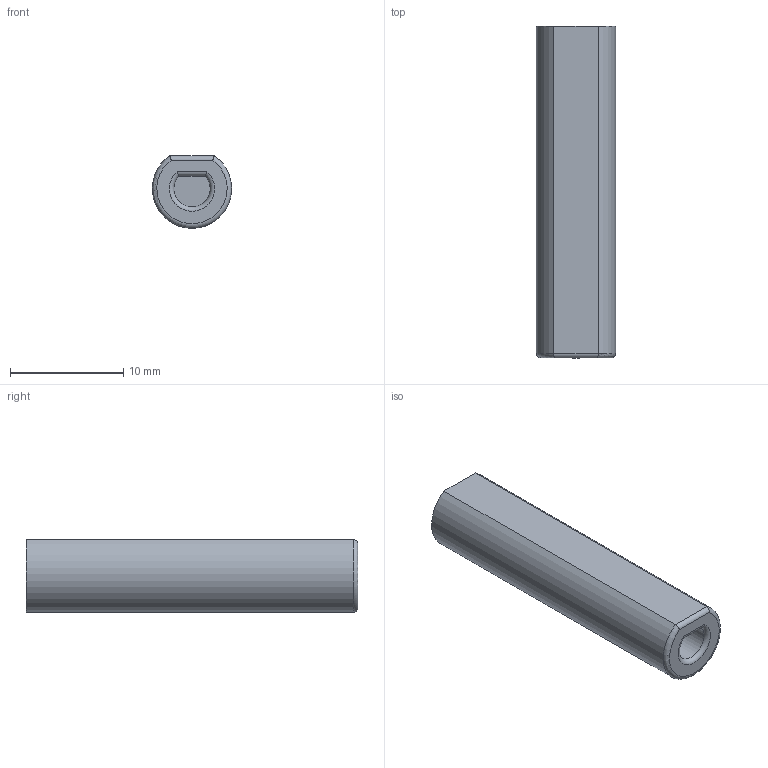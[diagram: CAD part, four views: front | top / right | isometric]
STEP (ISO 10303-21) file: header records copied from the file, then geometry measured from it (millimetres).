
FILE_DESCRIPTION(('Open CASCADE Model'),'2;1');
FILE_NAME('Open CASCADE Shape Model','2026-11-07T04:41:51',('Author'),( 'Open CASCADE'),'Open CASCADE STEP processor 8.0','build123d', 'Unknown');
FILE_SCHEMA(('AUTOMOTIVE_DESIGN { 1 0 10303 214 1 1 1 1 }'));
Length unit declared in the file: millimetre
Products named in the file (2): =>[0:1:1:2]; COMPOUND
Assembly tree (1 placements, depth 2):
  =>[0:1:1:2]
    COMPOUND
Bounding box: 6.99 x 29.28 x 6.4 mm (x, y, z)
Volume: 978.1 mm3; surface area: 850 mm2
Topology: 1 solids, 1 shells, 13 faces, 23 edges, 14 vertices
Faces by surface type: plane 6, cylinder 5, torus 2
Full cylindrical faces by diameter (mm): 2.5 x1
Entity records: 772 total; most frequent: CARTESIAN_POINT 284, DIRECTION 81, ORIENTED_EDGE 46, PCURVE 46, DEFINITIONAL_REPRESENTATION 46, LINE 31, VECTOR 31, B_SPLINE_CURVE_WITH_KNOTS 24
